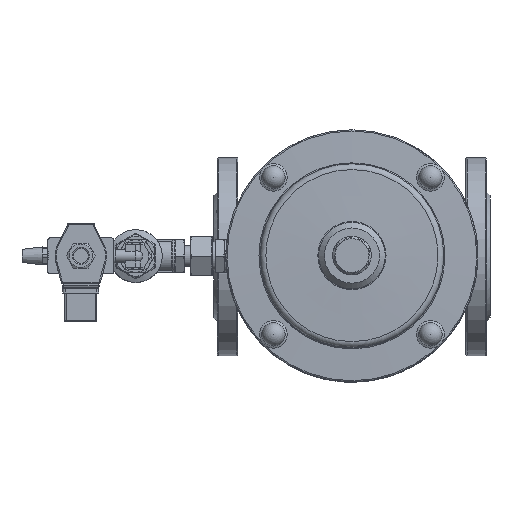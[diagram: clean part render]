
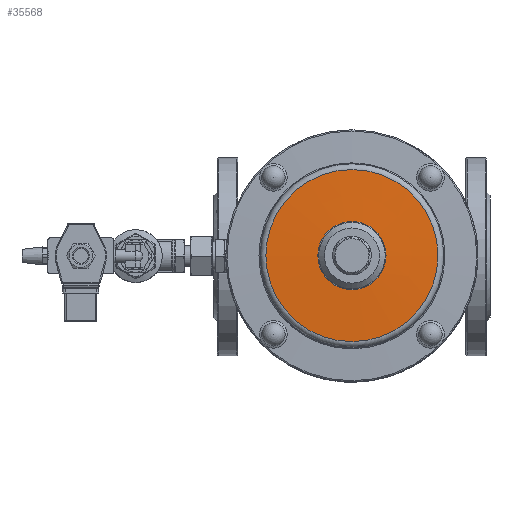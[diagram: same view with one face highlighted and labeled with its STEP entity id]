
A CAD part, top view. The second image highlights one B-rep face of the part: STEP entity #35568.
In plain terms, the highlighted conical face has half-angle 88 degrees and reference radius 52.247 mm.
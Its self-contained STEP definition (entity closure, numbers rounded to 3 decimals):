
#35537=CARTESIAN_POINT('',(-28.387,0.,555.786));
#35538=VERTEX_POINT('',#35537);
#35539=CARTESIAN_POINT('',(0.,0.,555.786));
#35540=DIRECTION('',(0.0,0.0,1.0));
#35541=DIRECTION('',(1.0,0.0,0.0));
#35542=AXIS2_PLACEMENT_3D('',#35539,#35540,#35541);
#35543=CIRCLE('',#35542,28.387);
#35544=EDGE_CURVE('',#35538,#35538,#35543,.T.);
#35549=CARTESIAN_POINT('',(0.,0.,554.953));
#35550=DIRECTION('',(0.,0.,-1.0));
#35551=DIRECTION('',(-1.0,0.0,0.0));
#35552=AXIS2_PLACEMENT_3D('',#35549,#35550,#35551);
#35553=CONICAL_SURFACE('',#35552,52.247,88.);
#35554=CARTESIAN_POINT('',(-71.674,0.,554.275));
#35555=VERTEX_POINT('',#35554);
#35556=CARTESIAN_POINT('',(0.,0.,554.275));
#35557=DIRECTION('',(0.0,0.0,-1.0));
#35558=DIRECTION('',(1.0,0.0,0.0));
#35559=AXIS2_PLACEMENT_3D('',#35556,#35557,#35558);
#35560=CIRCLE('',#35559,71.674);
#35561=EDGE_CURVE('',#35555,#35555,#35560,.T.);
#35562=ORIENTED_EDGE('',*,*,#35561,.F.);
#35563=EDGE_LOOP('',(#35562));
#35564=FACE_OUTER_BOUND('',#35563,.T.);
#35565=ORIENTED_EDGE('',*,*,#35544,.F.);
#35566=EDGE_LOOP('',(#35565));
#35567=FACE_BOUND('',#35566,.T.);
#35568=ADVANCED_FACE('',(#35564,#35567),#35553,.T.);
